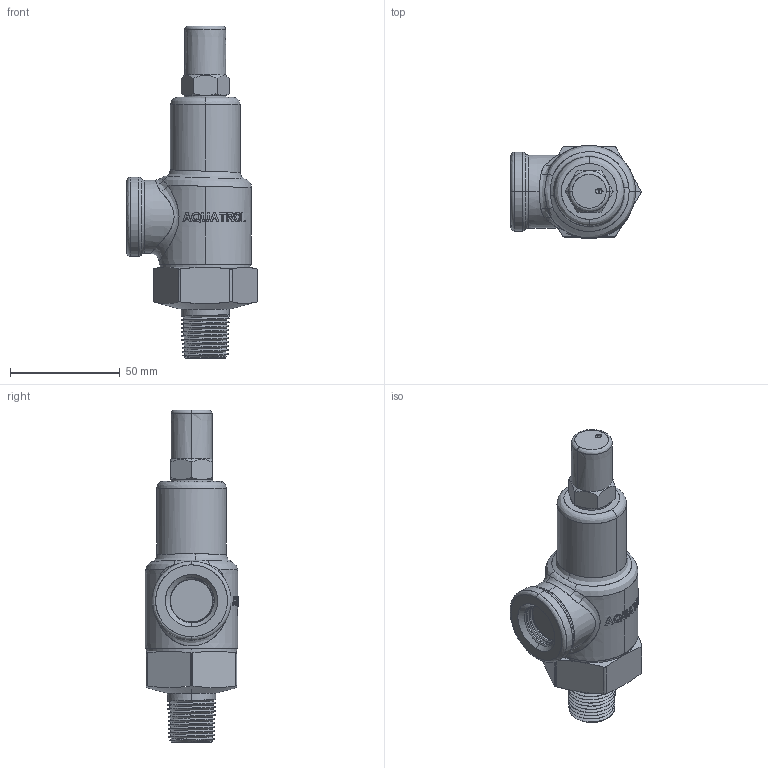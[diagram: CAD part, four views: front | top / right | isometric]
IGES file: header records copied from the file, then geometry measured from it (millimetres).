
Start section: SolidWorks IGES file using analytic representation for surfaces
Global section: file name: C:\Design\Design\Aquatrol\Customer 3D Files\Series 69 Customer Files\Series 69 500 x 500\Customer\Series 69 500 x 500.IGS; native system: SolidWorks 2015; preprocessor: SolidWorks 2015; author: Karl; date: 141208.100400; units: inch
Bounding box: 59.37 x 42.55 x 151.41 mm (x, y, z)
Surface area: 21115.5 mm2 (no closed solid volume)
Topology: 0 solids, 0 shells, 222 faces, 4912 edges, 4912 vertices
Faces by surface type: bspline 141, revolution 81
